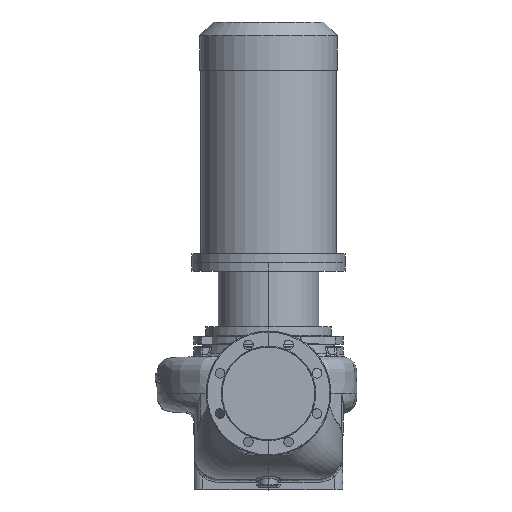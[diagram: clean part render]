
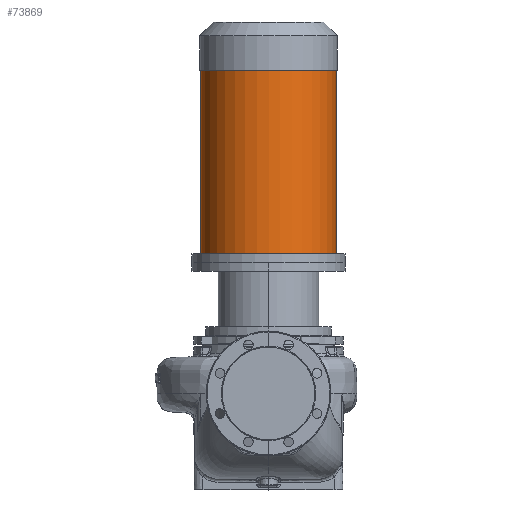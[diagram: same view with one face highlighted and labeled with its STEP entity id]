
A CAD part, top view. The second image highlights one B-rep face of the part: STEP entity #73869.
In plain terms, the highlighted cylindrical face has radius 154.5 mm (diameter 309 mm), a partial arc.
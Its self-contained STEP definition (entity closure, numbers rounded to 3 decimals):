
#514 = FACE_OUTER_BOUND ( 'NONE', #24949, .T. ) ;
#982 = CARTESIAN_POINT ( 'NONE',  ( -154.5, 299.8, 0. ) ) ;
#3591 = CARTESIAN_POINT ( 'NONE',  ( -154.5, 739.8, 0. ) ) ;
#6695 = LINE ( 'NONE', #55259, #59113 ) ;
#7632 = VERTEX_POINT ( 'NONE', #50120 ) ;
#7738 = CARTESIAN_POINT ( 'NONE',  ( 0., 319.8, 0. ) ) ;
#8637 = ORIENTED_EDGE ( 'NONE', *, *, #29938, .F. ) ;
#10989 = DIRECTION ( 'NONE',  ( -1., 0., 0. ) ) ;
#12633 = CARTESIAN_POINT ( 'NONE',  ( -154.5, 319.8, 0. ) ) ;
#14291 = CIRCLE ( 'NONE', #56660, 154.5 ) ;
#14590 = DIRECTION ( 'NONE',  ( 0., -1., 0. ) ) ;
#15425 = DIRECTION ( 'NONE',  ( -1., 0., 0. ) ) ;
#17645 = VERTEX_POINT ( 'NONE', #12633 ) ;
#20705 = DIRECTION ( 'NONE',  ( -1., 0., 0. ) ) ;
#22508 = ORIENTED_EDGE ( 'NONE', *, *, #25848, .F. ) ;
#22841 = CARTESIAN_POINT ( 'NONE',  ( 0., 739.8, 0. ) ) ;
#24949 = EDGE_LOOP ( 'NONE', ( #22508, #31990, #65553, #8637 ) ) ;
#25455 = LINE ( 'NONE', #982, #55691 ) ;
#25848 = EDGE_CURVE ( 'NONE', #7632, #27828, #6695, .T. ) ;
#27828 = VERTEX_POINT ( 'NONE', #39813 ) ;
#29938 = EDGE_CURVE ( 'NONE', #27828, #17645, #33338, .T. ) ;
#31990 = ORIENTED_EDGE ( 'NONE', *, *, #47422, .T. ) ;
#33338 = CIRCLE ( 'NONE', #68176, 154.5 ) ;
#36376 = DIRECTION ( 'NONE',  ( 0., -1., 0. ) ) ;
#39813 = CARTESIAN_POINT ( 'NONE',  ( 154.5, 319.8, 0. ) ) ;
#40205 = CARTESIAN_POINT ( 'NONE',  ( 0., 299.8, 0. ) ) ;
#47422 = EDGE_CURVE ( 'NONE', #7632, #50944, #14291, .T. ) ;
#50120 = CARTESIAN_POINT ( 'NONE',  ( 154.5, 739.8, 0. ) ) ;
#50944 = VERTEX_POINT ( 'NONE', #3591 ) ;
#52785 = DIRECTION ( 'NONE',  ( 0., -1., 0. ) ) ;
#55259 = CARTESIAN_POINT ( 'NONE',  ( 154.5, 299.8, 0. ) ) ;
#55691 = VECTOR ( 'NONE', #72000, 1000. ) ;
#55987 = CYLINDRICAL_SURFACE ( 'NONE', #67175, 154.5 ) ;
#56660 = AXIS2_PLACEMENT_3D ( 'NONE', #22841, #36376, #10989 ) ;
#59113 = VECTOR ( 'NONE', #61776, 1000. ) ;
#61776 = DIRECTION ( 'NONE',  ( 0., -1., 0. ) ) ;
#65553 = ORIENTED_EDGE ( 'NONE', *, *, #66337, .T. ) ;
#66337 = EDGE_CURVE ( 'NONE', #50944, #17645, #25455, .T. ) ;
#67175 = AXIS2_PLACEMENT_3D ( 'NONE', #40205, #14590, #15425 ) ;
#68176 = AXIS2_PLACEMENT_3D ( 'NONE', #7738, #52785, #20705 ) ;
#72000 = DIRECTION ( 'NONE',  ( 0., -1., 0. ) ) ;
#73869 = ADVANCED_FACE ( 'NONE', ( #514 ), #55987, .T. ) ;
